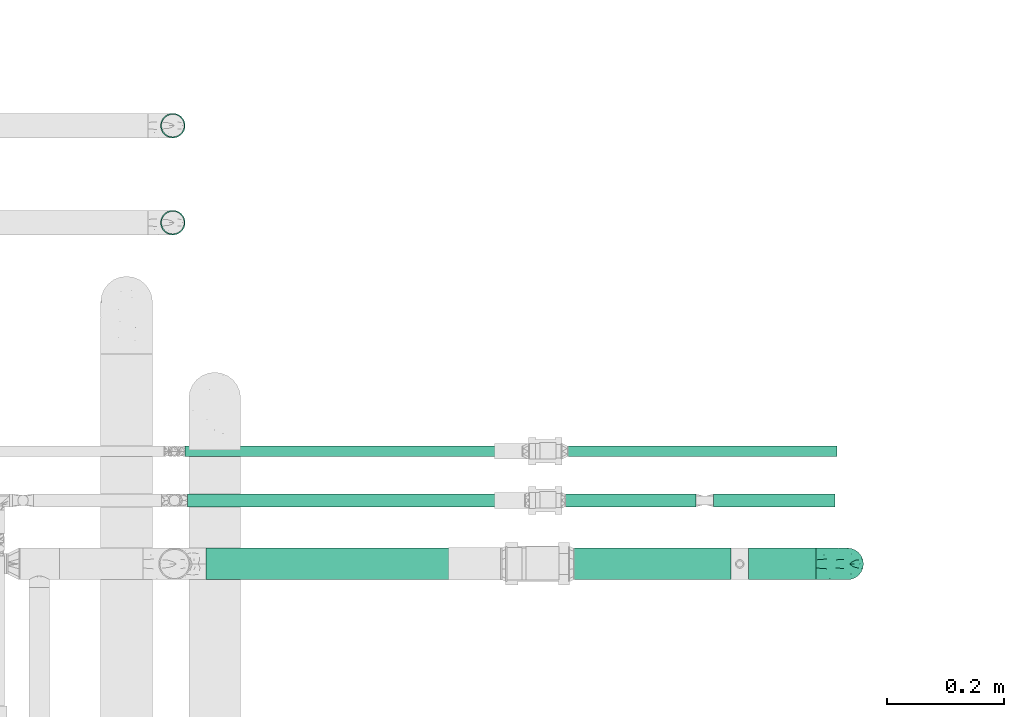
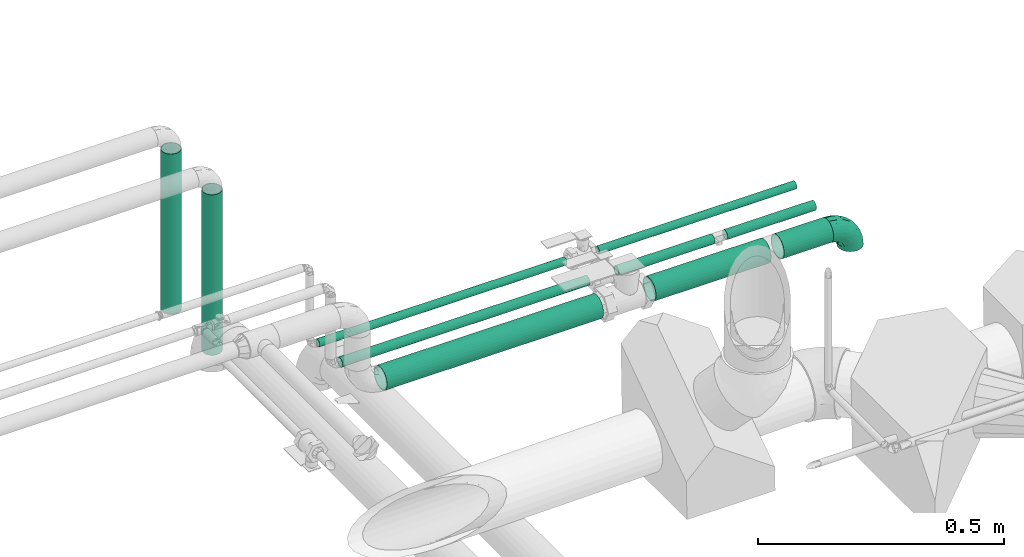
# One storey, part 65 of 156: 10 flow segments, 1 flow fitting.
"""IFC2X3 building model written with IfcOpenShell, lengths in millimetres."""

import ifcopenshell
import ifcopenshell.guid

model = None  # the IFC model being written
_history = None  # IfcOwnerHistory: only IFC2X3 demands one
_inside = {}  # id of a spatial element -> (the spatial element, [elements in it])
_under = {}  # id of a project, library or spatial element -> (it, [spatial elements below it])
_declared = {}  # id of a project -> (the project, [libraries it declares])
_typed = {}  # id of a type object -> (the type object, [elements of that type])
_made_of = {}  # id of a material, layer set ... -> (it, [elements and type objects made of it])


def new_model(schema):
    """Start an empty IFC model of exactly this schema.

    Asked for "IFC4X3", IfcOpenShell would pick the latest addendum, in which some entities
    have other attributes; the version numbers below select the first issue.
    IFC2X3 requires an IfcOwnerHistory on every rooted entity: one is made here for all.
    """
    global model, _history
    if schema == "IFC4X3":
        model = ifcopenshell.file(schema_version=(4, 3, 0, 0))
    else:
        model = ifcopenshell.file(schema=schema)
    _inside.clear()
    _under.clear()
    _declared.clear()
    _typed.clear()
    _made_of.clear()
    _history = None
    if model.schema == "IFC2X3":
        org = make("IfcOrganization", Name="unknown")
        user = make(
            "IfcPersonAndOrganization",
            ThePerson=make("IfcPerson", FamilyName="unknown"),
            TheOrganization=org,
        )
        app = make(
            "IfcApplication",
            ApplicationDeveloper=org,
            Version="unknown",
            ApplicationFullName="unknown",
            ApplicationIdentifier="unknown",
        )
        _history = make(
            "IfcOwnerHistory",
            OwningUser=user,
            OwningApplication=app,
            ChangeAction="ADDED",
            CreationDate=0,
        )
    return model


def make(cls, **values):
    """One entity of the class cls with the attributes given. An attribute that is None is left unset."""
    return model.create_entity(
        cls, **{name: value for name, value in values.items() if value is not None}
    )


def entity(cls, *values):
    """Any entity or typed value of the class cls, its attributes in the order of the schema. None: left unset."""
    e = model.create_entity(cls)
    for i, value in enumerate(values):
        if value is not None:
            e[i] = value
    return e


def rooted(cls, **values):
    """An entity with a GlobalId (a new one), such as an element, a storey or a relation."""
    return make(cls, GlobalId=ifcopenshell.guid.new(), OwnerHistory=_history, **values)


def si_unit(unit_type, name, prefix=None):
    """IfcSIUnit, for example si_unit("LENGTHUNIT", "METRE", prefix="MILLI")."""
    return make("IfcSIUnit", UnitType=unit_type, Prefix=prefix, Name=name)


def converted_unit(unit_type, name, factor, base, dimensions=None, offset=None):
    """IfcConversionBasedUnit, such as the inch: factor (a typed value) times the base unit."""
    return make(
        "IfcConversionBasedUnit"
        if offset is None
        else "IfcConversionBasedUnitWithOffset",
        ConversionOffset=offset,
        Dimensions=None
        if dimensions is None
        else entity("IfcDimensionalExponents", *dimensions),
        UnitType=unit_type,
        Name=name,
        ConversionFactor=make(
            "IfcMeasureWithUnit", ValueComponent=factor, UnitComponent=base
        ),
    )


def derived_unit(unit_type, elements):
    """IfcDerivedUnit: a product of units, each with its exponent."""
    return make(
        "IfcDerivedUnit",
        Elements=[
            make("IfcDerivedUnitElement", Unit=unit, Exponent=power)
            for unit, power in elements
        ],
        UnitType=unit_type,
    )


def assignment(units):
    """IfcUnitAssignment: the units of a project."""
    return None if units is None else make("IfcUnitAssignment", Units=units)


def point(xyz):
    """IfcCartesianPoint."""
    return None if xyz is None else make("IfcCartesianPoint", Coordinates=xyz)


def direction(xyz):
    """IfcDirection."""
    return None if xyz is None else make("IfcDirection", DirectionRatios=xyz)


def frame(location, z_axis=None, x_axis=None):
    """IfcAxis2Placement3D, a coordinate frame: its origin and axes. An axis left out is left unset."""
    return make(
        "IfcAxis2Placement3D",
        Location=point(location),
        Axis=direction(z_axis),
        RefDirection=direction(x_axis),
    )


def frame_2d(location, x_axis=None):
    """IfcAxis2Placement2D, a coordinate frame in the plane: its origin and x axis."""
    return make(
        "IfcAxis2Placement2D", Location=point(location), RefDirection=direction(x_axis)
    )


def origin_with_axes():
    """The frame at (0, 0, 0) with the z axis (0, 0, 1) and the x axis (1, 0, 0) written out."""
    return frame((0.0, 0.0, 0.0), z_axis=(0.0, 0.0, 1.0), x_axis=(1.0, 0.0, 0.0))


def origin_2d_with_axis():
    """The frame at (0, 0) in the plane with the x axis (1, 0) written out."""
    return frame_2d((0.0, 0.0), x_axis=(1.0, 0.0))


def place(relative_to, where):
    """IfcLocalPlacement: puts the frame where relative to a parent placement (None: the world)."""
    return make(
        "IfcLocalPlacement", PlacementRelTo=relative_to, RelativePlacement=where
    )


def context(
    kind, dimensions, precision=None, world=None, true_north=None, identifier=None
):
    """IfcGeometricRepresentationContext, for example the 3D "Model" context."""
    return make(
        "IfcGeometricRepresentationContext",
        ContextIdentifier=identifier,
        ContextType=kind,
        CoordinateSpaceDimension=dimensions,
        Precision=precision,
        WorldCoordinateSystem=world,
        TrueNorth=true_north,
    )


def subcontext(parent, identifier, kind, view, scale=None):
    """IfcGeometricRepresentationSubContext, for example "Body" below "Model"."""
    return make(
        "IfcGeometricRepresentationSubContext",
        ContextIdentifier=identifier,
        ContextType=kind,
        ParentContext=parent,
        TargetScale=scale,
        TargetView=view,
    )


def project(units=None, contexts=None):
    """IfcProject with its units and contexts."""
    return rooted(
        "IfcProject",
        Name="project",
        RepresentationContexts=contexts,
        UnitsInContext=assignment(units),
    )


def spatial(cls, under=None, at=None, **own):
    """A site, building, storey or space (cls), placed at a placement, below another one or the project."""
    s = rooted(cls, ObjectPlacement=at, **own)
    if under is not None:
        _under.setdefault(under.id(), (under, []))[1].append(s)
    return s


def profile(cls, at=None, kind="AREA", **sizes):
    """A parametric profile (cls). Its sizes go by their IFC names, for example OverallWidth=200.0."""
    return make(cls, ProfileType=kind, Position=at, **sizes)


def hollow_circle(**sizes):
    """IfcCircleHollowProfileDef."""
    return profile("IfcCircleHollowProfileDef", **sizes)


def extrude(swept, where, along, depth):
    """IfcExtrudedAreaSolid: the profile swept, set in the frame where, extruded along a direction by depth."""
    return make(
        "IfcExtrudedAreaSolid",
        SweptArea=swept,
        Position=where,
        ExtrudedDirection=direction(along),
        Depth=depth,
    )


def faces_of(points, faces, orient=None, outer=None):
    """IfcFace entities. A face is a list of loops; a loop is a list of indices into points, from 0.

    orient and outer hold one flag for each loop. By default every Orientation is true, the
    first loop of a face is its IfcFaceOuterBound and the others are IfcFaceBound.
    """
    made = []
    for i, loops in enumerate(faces):
        bounds = []
        for j, loop in enumerate(loops):
            is_outer = j == 0 if outer is None else outer[i][j]
            bounds.append(
                make(
                    "IfcFaceOuterBound" if is_outer else "IfcFaceBound",
                    Bound=make("IfcPolyLoop", Polygon=[points[k] for k in loop]),
                    Orientation=True if orient is None else orient[i][j],
                )
            )
        made.append(make("IfcFace", Bounds=bounds))
    return made


def open_shell(faces, orient=None, outer=None):
    """The faces of one IfcOpenShell. surface_model builds it on its shared points."""
    return ("IfcOpenShell", faces, orient, outer)


def surface_model(cls, points, shells):
    """IfcFaceBasedSurfaceModel or IfcShellBasedSurfaceModel (cls): surfaces that need not close."""
    shared = [point(p) for p in points]
    made = [make(c, CfsFaces=faces_of(shared, fs, o, b)) for c, fs, o, b in shells]
    if cls == "IfcFaceBasedSurfaceModel":
        return make(cls, FbsmFaces=made)
    return make(cls, SbsmBoundary=made)


def shape(context_of_items, identifier, shape_type, items):
    """IfcShapeRepresentation: the items that make up one representation, for example the "Body"."""
    return make(
        "IfcShapeRepresentation",
        ContextOfItems=context_of_items,
        RepresentationIdentifier=identifier,
        RepresentationType=shape_type,
        Items=items,
    )


def source(mapping_origin, context_of_items, identifier, shape_type, items):
    """IfcRepresentationMap: a shape defined once, which mapped items show again and again."""
    return make(
        "IfcRepresentationMap",
        MappingOrigin=mapping_origin,
        MappedRepresentation=shape(context_of_items, identifier, shape_type, items),
    )


def transform(
    local_origin,
    x_axis=None,
    y_axis=None,
    z_axis=None,
    scale=None,
    scale2=None,
    scale3=None,
    uniform=True,
):
    """IfcCartesianTransformationOperator3D, or its non-uniform kind. x_axis, y_axis, z_axis: its Axis1, 2, 3."""
    if uniform:
        return make(
            "IfcCartesianTransformationOperator3D",
            Axis1=direction(x_axis),
            Axis2=direction(y_axis),
            LocalOrigin=point(local_origin),
            Scale=scale,
            Axis3=direction(z_axis),
        )
    return make(
        "IfcCartesianTransformationOperator3DnonUniform",
        Axis1=direction(x_axis),
        Axis2=direction(y_axis),
        LocalOrigin=point(local_origin),
        Scale=scale,
        Axis3=direction(z_axis),
        Scale2=scale2,
        Scale3=scale3,
    )


def mapped(mapping_source, mapping_target):
    """IfcMappedItem: shows the shape of a source again, moved by a transform."""
    return make(
        "IfcMappedItem", MappingSource=mapping_source, MappingTarget=mapping_target
    )


def made_of(thing, what):
    """Note that an element or type object is made of a material, layer set ...; save() writes the relation."""
    if what is not None:
        _made_of.setdefault(what.id(), (what, []))[1].append(thing)
    return thing


def type_object(cls, material=None, **own):
    """A type object (cls), such as IfcWallType, which elements share."""
    return made_of(rooted(cls, **own), material)


def element(
    cls,
    number,
    at=None,
    inside=None,
    cuts=None,
    type_object=None,
    material=None,
    context=None,
    identifier="Body",
    shape_type=None,
    held_by="IfcProductDefinitionShape",
    body=None,
    shapes=None,
    **own,
):
    """One element of the class cls, such as IfcWall. Its Tag is "e" and its number.

    at: its placement. inside: the storey or other place that contains it. cuts: it is an
    opening in that element (IfcRelVoidsElement). A single representation is given by context,
    identifier, shape_type and body (its items); several are given by shapes. held_by: the class
    of the entity that holds the representations. save() writes the other relations.
    """
    e = rooted(cls, Tag="e%d" % number, ObjectPlacement=at, **own)
    if body is not None:
        shapes = [shape(context, identifier, shape_type, body)]
    if shapes is not None:
        e.Representation = make(held_by, Representations=shapes)
    if inside is not None:
        _inside.setdefault(inside.id(), (inside, []))[1].append(e)
    if cuts is not None:
        rooted(
            "IfcRelVoidsElement", RelatingBuildingElement=cuts, RelatedOpeningElement=e
        )
    if type_object is not None:
        _typed.setdefault(type_object.id(), (type_object, []))[1].append(e)
    return made_of(e, material)


def aggregate(whole, parts):
    """IfcRelAggregates: a whole, such as a stair, and the parts it consists of."""
    return rooted("IfcRelAggregates", RelatingObject=whole, RelatedObjects=parts)


def save(model, path):
    """Write the relations noted so far, then the file.

    IfcRelAggregates (storeys below a building ...), IfcRelContainedInSpatialStructure (elements
    in a storey), IfcRelDefinesByType, IfcRelAssociatesMaterial and IfcRelDeclares: one each for
    every whole, place, type object, material and project.
    """
    for whole, parts in _under.values():
        aggregate(whole, parts)
    for where, things in _inside.values():
        rooted(
            "IfcRelContainedInSpatialStructure",
            RelatedElements=things,
            RelatingStructure=where,
        )
    for kind, things in _typed.values():
        rooted("IfcRelDefinesByType", RelatedObjects=things, RelatingType=kind)
    for what, things in _made_of.values():
        rooted("IfcRelAssociatesMaterial", RelatedObjects=things, RelatingMaterial=what)
    for by, libraries in _declared.values():
        rooted("IfcRelDeclares", RelatingContext=by, RelatedDefinitions=libraries)
    model.write(path)


model = new_model("IFC2X3")

# Units and contexts
model_context = context("Model", 3, precision=0.01, world=frame((0.0, 4.29681676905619e-09, 0.0)), true_north=direction((4.01073788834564e-13, 1.0)))
plan_context = context("Plan", 3, precision=0.01, world=frame((0.0, 4.29681676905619e-09, 0.0)), true_north=direction((4.01073788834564e-13, 1.0)))
body_context = subcontext(model_context, "Body", "Model", "MODEL_VIEW")
ifc_project = project(units=[converted_unit("PLANEANGLEUNIT", "DEGREE", entity("IfcPositiveLengthMeasure", 0.0174532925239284), si_unit("PLANEANGLEUNIT", "RADIAN"), dimensions=[0, 0, 0, 0, 0, 0, 0]), si_unit("AREAUNIT", "SQUARE_METRE"), si_unit("LENGTHUNIT", "METRE", prefix="MILLI"), si_unit("MASSUNIT", "GRAM", prefix="KILO"), si_unit("POWERUNIT", "WATT"), si_unit("PRESSUREUNIT", "PASCAL", prefix="KILO"), si_unit("FORCEUNIT", "NEWTON", prefix="KILO"), si_unit("ELECTRICVOLTAGEUNIT", "VOLT"), si_unit("ELECTRICCURRENTUNIT", "AMPERE"), si_unit("THERMODYNAMICTEMPERATUREUNIT", "DEGREE_CELSIUS"), si_unit("TIMEUNIT", "SECOND"), si_unit("VOLUMEUNIT", "CUBIC_METRE"), derived_unit("LINEARVELOCITYUNIT", [(si_unit("LENGTHUNIT", "METRE"), 1), (si_unit("TIMEUNIT", "SECOND"), -1)]), derived_unit("VOLUMETRICFLOWRATEUNIT", [(si_unit("VOLUMEUNIT", "CUBIC_METRE"), 1), (si_unit("TIMEUNIT", "SECOND"), -1)]), derived_unit("THERMALTRANSMITTANCEUNIT", [(si_unit("POWERUNIT", "WATT"), 1), (si_unit("THERMODYNAMICTEMPERATUREUNIT", "KELVIN"), -1), (si_unit("AREAUNIT", "SQUARE_METRE"), -1)]), derived_unit("SOUNDPRESSUREUNIT", [(si_unit("PRESSUREUNIT", "PASCAL"), 1)])], contexts=[model_context, plan_context])

# Site, building, storey
site_placement = place(None, frame((0.0, -4.29681676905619e-09, 0.0), z_axis=(0.0, 0.0, 1.0), x_axis=(1.0, 0.0, 0.0)))
site = spatial("IfcSite", under=ifc_project, at=site_placement, CompositionType="ELEMENT")
building_placement = place(site_placement, frame((0.0, 4.29681676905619e-09, 0.0), z_axis=(0.0, 0.0, 1.0), x_axis=(1.0, 0.0, 0.0)))
building = spatial("IfcBuilding", under=site, at=building_placement, Name="mc-building", CompositionType="ELEMENT")
storey_placement = place(building_placement, frame((0.0, 0.0, 205200.0), z_axis=(0.0, 0.0, 1.0), x_axis=(1.0, 0.0, 0.0)))
storey = spatial("IfcBuildingStorey", under=building, at=storey_placement, Name="Nivå D + 1,2 m", CompositionType="ELEMENT", Elevation=205200.0)

# Flow fitting
pipe_fitting_type = type_object("IfcPipeFittingType", Name="magi_pipe_elbow_short_001", PredefinedType="BEND")
shared_shape_1 = source(origin_with_axes(), body_context, "Body", "SurfaceModel", [
    surface_model("IfcShellBasedSurfaceModel", [(-54.0, 0.0, -27.0), (-54.0, -6.98811, -26.08), (-54.0, 6.98811, -26.08), (-54.0, -13.5, -23.38269), (-54.0, -19.09188, -19.09188), (-54.0, -23.38269, -13.5), (-54.0, -26.08, -6.98811), (-54.0, -27.0, 0.0), (-54.0, 26.08, -6.98811), (-54.0, 23.38269, 13.5), (-54.0, 26.08, 6.98811), (-54.0, 19.09188, 19.09188), (-54.0, 6.98811, 26.08), (-54.0, 13.5, 23.38269), (-54.0, -19.09188, 19.09188), (-54.0, -13.5, 23.38269), (-54.0, -23.38269, 13.5), (-54.0, -26.08, 6.98811), (-54.0, -6.98811, 26.08), (-54.0, 0.0, 27.0), (-6.98811, 54.0, -26.08), (6.98811, 54.0, -26.08), (0.0, 54.0, -27.0), (19.09188, 54.0, -19.09188), (13.5, 54.0, -23.38269), (27.0, 54.0, 0.0), (26.08, 54.0, -6.98811), (23.38269, 54.0, -13.5), (23.38269, 54.0, 13.5), (-26.08, 54.0, 6.98811), (-23.38269, 54.0, 13.5), (-26.08, 54.0, -6.98811), (-19.09188, 54.0, 19.09188), (-13.5, 54.0, 23.38269), (-6.98811, 54.0, 26.08), (13.5, 54.0, 23.38269), (19.09188, 54.0, 19.09188), (26.08, 54.0, 6.98811), (6.98811, 54.0, 26.08), (0.0, 54.0, 27.0), (-39.61154, -20.97605, 15.15708), (-35.45606, -15.57721, 20.11923), (-38.50132, -23.91712, 0.0), (-23.86759, -17.19462, 13.62733), (-35.88435, -23.5659, 8.42076), (23.5659, 35.88435, 8.42076), (19.05193, 21.15087, 6.92152), (20.83424, 23.00264, 0.0), (-26.39267, 43.09347, 11.73514), (-22.55495, 42.03593, 17.7381), (-39.68533, -10.20988, 24.2917), (-41.24736, -3.57676, 26.53823), (-37.80877, 4.13874, 26.95398), (-9.8635, -12.05495, 0.0), (-21.15087, -19.05193, 6.92152), (-23.00264, -20.83424, 0.0), (-20.86046, -6.553, 22.43106), (-26.88103, -0.2423, 26.16984), (-2.32359, -4.56424, 12.16558), (-0.45254, 0.55713, 16.12825), (-9.17815, -6.46576, 16.63487), (-42.20732, 22.50781, 17.71924), (-9.38376, 26.55177, 26.95156), (-19.99929, 19.99929, 26.34396), (-16.07717, 11.79878, 26.86092), (-46.71355, 16.35074, 22.00025), (-10.07861, 46.57322, 25.29032), (-3.70046, 40.38819, 26.93368), (-43.10688, 26.3883, 11.73335), (-54.0, 27.0, 0.0), (-42.68609, 28.75898, 5.93637), (-33.52407, 33.52407, 10.09282), (-41.6207, 10.58928, 25.50537), (-7.04776, 18.08389, 26.51124), (-13.41575, 4.9532, 25.21256), (-2.7583, 14.58736, 24.81267), (-4.82297, 4.82297, 22.07479), (15.57721, 35.45606, 20.11923), (17.19462, 23.86759, 13.62733), (20.97605, 39.61154, 15.15708), (-28.70414, 18.3202, 24.97342), (-29.66962, 11.56537, 26.51682), (3.57676, 41.24736, 26.53823), (10.20988, 39.68533, 24.2917), (6.553, 20.86046, 22.43106), (23.91712, 38.50132, 0.0), (-26.4941, 6.61616, 26.98848), (-24.99511, 28.51241, 22.18592), (-37.18023, 18.32807, 22.73678), (-28.42093, 43.55716, 5.79236), (-33.83866, 35.41357, 4.75182), (12.32393, 21.86915, 18.4669), (-30.61731, 40.5, 0.0), (-27.0, 54.0, 0.0), (-11.677, 36.58566, 25.71372), (-15.40733, 27.94959, 25.95527), (-19.57488, 34.89765, 22.69273), (-21.51054, 26.14004, 24.56694), (-16.49507, 45.27461, 22.11226), (-21.86915, -12.32393, 18.4669), (-28.00174, 35.79085, 15.28172), (-28.46079, 30.1533, 19.12532), (-34.67745, 29.01187, 15.05583), (0.2423, 26.88103, 26.16984), (6.14836, 9.37801, 17.10224), (-12.81493, -12.05275, 12.67362), (1.60314, -3.50694, 7.30779), (8.1991, 4.80894, 9.42925), (8.37417, 2.80273, 4.04625), (13.9067, 11.26247, 6.37746), (13.55623, 14.00643, 11.33194), (-40.5, 30.61731, 0.0), (-7.27702, -10.73712, 7.83929), (3.27565, -3.27565, 0.0), (12.05495, 9.8635, 0.0), (-21.86915, -12.32393, -18.4669), (-35.45606, -15.57721, -20.11923), (-20.86046, -6.553, -22.43106), (-23.86759, -17.19462, -13.62733), (-54.0, 23.38269, -13.5), (-42.03593, 22.55495, -17.7381), (-54.0, 19.09188, -19.09188), (-45.27461, 16.49507, -22.11226), (-54.0, 13.5, -23.38269), (-43.55716, 28.42093, -5.79236), (-35.88435, -23.5659, -8.42076), (-33.52407, 33.52407, -10.09282), (-43.09347, 26.39267, -11.73514), (-21.15087, -19.05193, -6.92152), (-26.14004, 21.51054, -24.56694), (-27.94959, 15.40733, -25.95527), (-34.89765, 19.57488, -22.69273), (-19.09188, 54.0, -19.09188), (-16.35074, 46.71355, -22.00025), (-22.50781, 42.20732, -17.71924), (10.20988, 39.68533, -24.2917), (6.553, 20.86046, -22.43106), (0.2423, 26.88103, -26.16984), (-46.57322, 10.07861, -25.29032), (-39.61154, -20.97605, -15.15708), (-39.68533, -10.20988, -24.2917), (-18.3202, 28.70414, -24.97342), (-10.58928, 41.6207, -25.50537), (-11.56537, 29.66962, -26.51682), (-41.24736, -3.57676, -26.53823), (-26.55177, 9.38376, -26.95156), (-19.99929, 19.99929, -26.34396), (-11.79878, 16.07717, -26.86092), (-40.38819, 3.70046, -26.93368), (-28.75898, 42.68609, -5.93637), (-26.3883, 43.10688, -11.73334), (-36.58566, 11.677, -25.71372), (-35.41357, 33.83866, -4.75182), (-6.61616, 26.4941, -26.98848), (-28.51241, 24.99511, -22.18593), (-18.32807, 37.18023, -22.73678), (-23.38269, 54.0, -13.5), (3.57676, 41.24736, -26.53823), (-4.13874, 37.80876, -26.95398), (-13.5, 54.0, -23.38269), (20.97605, 39.61154, -15.15708), (15.57721, 35.45606, -20.11923), (8.37418, 2.80274, -4.04624), (13.9067, 11.26247, -6.37746), (-18.08389, 7.04775, -26.51124), (-4.9532, 13.41575, -25.21256), (-14.58736, 2.75829, -24.81267), (1.60314, -3.50694, -7.30779), (-7.27702, -10.73712, -7.83929), (-2.32359, -4.56424, -12.16557), (17.19462, 23.86759, -13.62733), (23.5659, 35.88435, -8.42076), (19.05193, 21.15087, -6.92152), (-35.79085, 28.00174, -15.28172), (12.32393, 21.86915, -18.4669), (13.55623, 14.00642, -11.33194), (6.14836, 9.37801, -17.10224), (-30.1533, 28.46079, -19.12532), (-29.01188, 34.67745, -15.05583), (-26.88103, -0.2423, -26.16984), (-4.82297, 4.82297, -22.07479), (-9.17815, -6.46576, -16.63487), (-12.81493, -12.05275, -12.67362), (-0.45254, 0.55713, -16.12825), (8.1991, 4.80894, -9.42925)], [open_shell([[[0, 1, 2]], [[3, 4, 1]], [[5, 6, 4]], [[7, 4, 6]], [[8, 9, 10]], [[8, 11, 9]], [[12, 13, 11]], [[14, 15, 16]], [[16, 7, 17]], [[15, 18, 16]], [[18, 12, 16]], [[12, 18, 19]], [[20, 21, 22]], [[21, 23, 24]], [[23, 21, 25]], [[23, 26, 27]], [[26, 23, 25]], [[25, 21, 28]], [[29, 30, 31]], [[32, 33, 34]], [[28, 35, 36]], [[37, 25, 28]], [[28, 38, 35]], [[28, 34, 38]], [[39, 38, 34]], [[14, 40, 41]], [[17, 7, 42]], [[43, 40, 44]], [[45, 46, 47]], [[40, 14, 16]], [[17, 44, 16]], [[30, 48, 49]], [[41, 15, 14]], [[41, 50, 15]], [[19, 51, 52]], [[53, 54, 55]], [[50, 56, 57]], [[58, 59, 60]], [[9, 11, 61]], [[62, 63, 64]], [[13, 65, 11]], [[18, 51, 19]], [[34, 66, 67]], [[19, 52, 12]], [[9, 61, 68]], [[11, 65, 61]], [[69, 10, 70]], [[10, 9, 68]], [[70, 68, 71]], [[12, 72, 13]], [[73, 74, 75]], [[60, 76, 56]], [[77, 36, 35]], [[78, 79, 77]], [[80, 72, 81]], [[15, 50, 18]], [[39, 82, 38]], [[45, 37, 28]], [[39, 34, 67]], [[77, 83, 84]], [[28, 79, 45]], [[85, 37, 45]], [[79, 28, 36]], [[83, 35, 38]], [[45, 47, 85]], [[81, 86, 64]], [[46, 45, 78]], [[80, 87, 88]], [[71, 89, 90]], [[91, 77, 84]], [[92, 89, 93]], [[72, 12, 52]], [[89, 71, 48]], [[54, 44, 55]], [[49, 32, 30]], [[94, 62, 67]], [[95, 96, 97]], [[17, 42, 44]], [[98, 33, 32]], [[66, 34, 33]], [[49, 96, 98]], [[99, 56, 41]], [[83, 77, 35]], [[30, 29, 48]], [[48, 100, 49]], [[96, 49, 101]], [[88, 101, 61]], [[68, 102, 71]], [[94, 95, 62]], [[82, 67, 103]], [[56, 50, 41]], [[55, 44, 42]], [[51, 50, 57]], [[99, 41, 43]], [[56, 76, 74]], [[82, 83, 38]], [[25, 37, 85]], [[103, 75, 84]], [[103, 84, 83]], [[84, 76, 104]], [[105, 60, 99]], [[58, 60, 105]], [[54, 43, 44]], [[58, 106, 107]], [[108, 109, 107]], [[91, 78, 77]], [[44, 40, 16]], [[41, 40, 43]], [[77, 79, 36]], [[45, 79, 78]], [[81, 72, 52]], [[65, 72, 88]], [[89, 48, 29]], [[71, 102, 100]], [[80, 97, 87]], [[94, 66, 98]], [[102, 61, 101]], [[71, 90, 70]], [[81, 64, 63]], [[103, 67, 62]], [[74, 64, 57]], [[62, 64, 73]], [[67, 82, 39]], [[83, 82, 103]], [[50, 51, 18]], [[52, 51, 57]], [[59, 76, 60]], [[104, 107, 110]], [[81, 52, 86]], [[80, 81, 63]], [[97, 80, 63]], [[72, 80, 88]], [[95, 97, 63]], [[87, 97, 96]], [[93, 89, 29]], [[89, 92, 90]], [[92, 111, 90]], [[90, 111, 70]], [[69, 70, 111]], [[10, 68, 70]], [[52, 57, 86]], [[57, 64, 86]], [[62, 95, 63]], [[96, 95, 94]], [[61, 102, 68]], [[100, 102, 101]], [[49, 100, 101]], [[71, 100, 48]], [[49, 98, 32]], [[94, 98, 96]], [[96, 101, 87]], [[88, 87, 101]], [[56, 74, 57]], [[75, 74, 76]], [[84, 75, 76]], [[73, 75, 103]], [[62, 73, 103]], [[74, 73, 64]], [[72, 65, 13]], [[61, 65, 88]], [[98, 66, 33]], [[67, 66, 94]], [[54, 53, 112]], [[105, 54, 112]], [[107, 109, 110]], [[113, 112, 53]], [[105, 99, 43]], [[107, 106, 108]], [[114, 47, 46]], [[60, 56, 99]], [[84, 104, 91]], [[110, 91, 104]], [[54, 105, 43]], [[58, 105, 112]], [[106, 58, 112]], [[59, 107, 104]], [[112, 113, 106]], [[108, 106, 113]], [[113, 114, 108]], [[109, 114, 46]], [[114, 109, 108]], [[110, 46, 78]], [[46, 110, 109]], [[110, 78, 91]], [[107, 59, 58]], [[76, 59, 104]], [[115, 116, 117]], [[116, 115, 118]], [[119, 120, 121]], [[121, 122, 123]], [[111, 124, 69]], [[42, 6, 125]], [[124, 126, 127]], [[125, 128, 55]], [[129, 130, 131]], [[132, 133, 134]], [[135, 136, 137]], [[123, 138, 2]], [[125, 5, 139]], [[140, 3, 1]], [[125, 55, 42]], [[119, 8, 127]], [[5, 4, 139]], [[141, 142, 143]], [[144, 1, 0]], [[145, 146, 147]], [[5, 125, 6]], [[118, 139, 116]], [[148, 0, 2]], [[149, 150, 126]], [[120, 131, 122]], [[151, 145, 148]], [[124, 152, 126]], [[143, 153, 147]], [[93, 31, 149]], [[141, 154, 155]], [[150, 31, 156]], [[22, 157, 158]], [[116, 4, 3]], [[132, 159, 133]], [[142, 159, 20]], [[23, 160, 161]], [[22, 21, 157]], [[114, 162, 163]], [[127, 120, 119]], [[132, 134, 156]], [[2, 138, 148]], [[24, 161, 135]], [[140, 116, 3]], [[22, 158, 20]], [[164, 165, 166]], [[167, 168, 169]], [[27, 160, 23]], [[161, 24, 23]], [[170, 160, 171]], [[128, 125, 118]], [[25, 85, 26]], [[26, 85, 171]], [[172, 171, 47]], [[26, 171, 27]], [[142, 20, 158]], [[127, 173, 120]], [[174, 175, 176]], [[134, 150, 156]], [[24, 135, 21]], [[116, 140, 117]], [[131, 120, 177]], [[155, 177, 134]], [[150, 178, 126]], [[151, 130, 145]], [[144, 148, 179]], [[144, 140, 1]], [[7, 6, 42]], [[179, 166, 117]], [[179, 117, 140]], [[117, 180, 181]], [[136, 135, 161]], [[47, 171, 85]], [[157, 135, 137]], [[174, 161, 170]], [[136, 180, 165]], [[180, 136, 176]], [[118, 115, 182]], [[176, 183, 180]], [[53, 128, 168]], [[169, 168, 182]], [[172, 170, 171]], [[116, 139, 4]], [[125, 139, 118]], [[171, 160, 27]], [[161, 160, 170]], [[143, 142, 158]], [[133, 142, 155]], [[124, 127, 8]], [[126, 178, 173]], [[141, 129, 154]], [[151, 138, 122]], [[178, 134, 177]], [[126, 152, 149]], [[143, 147, 146]], [[179, 148, 145]], [[165, 147, 137]], [[145, 147, 164]], [[148, 144, 0]], [[140, 144, 179]], [[135, 157, 21]], [[158, 157, 137]], [[174, 136, 161]], [[184, 169, 183]], [[143, 158, 153]], [[141, 143, 146]], [[129, 141, 146]], [[142, 141, 155]], [[130, 129, 146]], [[154, 129, 131]], [[69, 124, 8]], [[124, 111, 152]], [[111, 92, 152]], [[152, 92, 149]], [[93, 149, 92]], [[31, 150, 149]], [[158, 137, 153]], [[137, 147, 153]], [[145, 130, 146]], [[131, 130, 151]], [[134, 178, 150]], [[173, 178, 177]], [[120, 173, 177]], [[126, 173, 127]], [[120, 122, 121]], [[151, 122, 131]], [[131, 177, 154]], [[155, 154, 177]], [[136, 165, 137]], [[166, 165, 180]], [[117, 166, 180]], [[164, 166, 179]], [[145, 164, 179]], [[165, 164, 147]], [[142, 133, 159]], [[134, 133, 155]], [[122, 138, 123]], [[148, 138, 151]], [[182, 128, 118]], [[168, 113, 53]], [[113, 167, 162]], [[55, 128, 53]], [[172, 163, 175]], [[172, 47, 114]], [[117, 181, 115]], [[182, 115, 181]], [[175, 174, 170]], [[176, 136, 174]], [[169, 182, 181]], [[128, 182, 168]], [[183, 169, 181]], [[167, 169, 184]], [[162, 167, 184]], [[113, 168, 167]], [[163, 162, 184]], [[114, 113, 162]], [[175, 163, 184]], [[114, 163, 172]], [[176, 175, 184]], [[172, 175, 170]], [[180, 183, 181]], [[184, 183, 176]], [[2, 1, 123]], [[8, 119, 121]], [[121, 123, 7]], [[121, 7, 8]], [[4, 123, 1]], [[4, 7, 123]], [[7, 11, 8]], [[11, 7, 12]], [[16, 12, 7]], [[69, 8, 10]], [[31, 20, 159]], [[156, 31, 159]], [[156, 159, 132]], [[20, 28, 21]], [[20, 31, 32]], [[30, 32, 31]], [[34, 20, 32]], [[34, 28, 20]], [[31, 93, 29]]])]),
])
flow_fitting_placement = place(storey_placement, frame((328120.59277, 463284.5375, 4128.0), z_axis=(0.0, 1.0, 0.0), x_axis=(1.0, 0.0, 0.0)))
element("IfcFlowFitting", 1, at=flow_fitting_placement, inside=storey, type_object=pipe_fitting_type, Name="magi_pipe_elbow_short_001", context=body_context, shape_type="MappedRepresentation", body=[
    mapped(shared_shape_1, transform((0.0, 0.0, 0.0), scale=1.0)),
])

# Flow segments
pipe_segment_type_1 = type_object("IfcPipeSegmentType", Name="Stålrør normaltykke", PredefinedType="RIGIDSEGMENT")
shared_shape_2 = source(origin_with_axes(), body_context, "Body", "SweptSolid", [
    extrude(hollow_circle(Radius=21.2, WallThickness=2.0, at=origin_2d_with_axis()), frame((0.0, 0.0, 0.0), z_axis=(1.0, 0.0, 0.0), x_axis=(0.0, 1.0, 0.0)), (0.0, 0.0, 1.0), 397.7),
])
for number, where, z_axis, x_axis in (
    (2, (326963.30442, 463869.78191, 3863.39999999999), (1.0, 0.0, 0.0), (0.0, 0.0, 1.0)),
    (3, (326963.30442, 464036.1423, 3863.39999999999), (1.0, 0.0, 0.0), (0.0, 0.0, 1.0)),
):
    element("IfcFlowSegment", number, at=place(storey_placement, frame(where, z_axis=z_axis, x_axis=x_axis)), inside=storey, type_object=pipe_segment_type_1, Name="Stålrør normaltykke", context=body_context, shape_type="MappedRepresentation", body=[
        mapped(shared_shape_2, transform((0.0, 0.0, 0.0), scale=1.0)),
    ])
pipe_segment_type_2 = type_object("IfcPipeSegmentType", Name="Kobberrør", PredefinedType="RIGIDSEGMENT")
shared_shape_3 = source(origin_with_axes(), body_context, "Body", "SweptSolid", [
    extrude(hollow_circle(Radius=27.0, WallThickness=2.0, at=origin_2d_with_axis()), frame((0.0, 0.0, 0.0), z_axis=(1.0, 0.0, 0.0), x_axis=(0.0, 1.0, 0.0)), (0.0, 0.0, 1.0), 116.1),
])
flow_segment_1_placement = place(storey_placement, frame((327950.47035, 463284.5375, 4128.0), z_axis=(0.0, 0.0, 1.0), x_axis=(1.0, 0.0, 0.0)))
element("IfcFlowSegment", 4, at=flow_segment_1_placement, inside=storey, type_object=pipe_segment_type_2, Name="Kobberrør", context=body_context, shape_type="MappedRepresentation", body=[
    mapped(shared_shape_3, transform((0.0, 0.0, 0.0), scale=1.0)),
])
shared_shape_4 = source(origin_with_axes(), body_context, "Body", "SweptSolid", [
    extrude(hollow_circle(Radius=11.0, WallThickness=2.0, at=origin_2d_with_axis()), frame((0.0, 0.0, 0.0), z_axis=(1.0, 0.0, 0.0), x_axis=(0.0, 1.0, 0.0)), (0.0, 0.0, 1.0), 208.1),
])
flow_segment_2_placement = place(storey_placement, frame((327890.47035, 463393.4875, 4112.0), z_axis=(0.0, 0.0, 1.0), x_axis=(1.0, 0.0, 0.0)))
element("IfcFlowSegment", 5, at=flow_segment_2_placement, inside=storey, type_object=pipe_segment_type_2, Name="Kobberrør", context=body_context, shape_type="MappedRepresentation", body=[
    mapped(shared_shape_4, transform((0.0, 0.0, 0.0), scale=1.0)),
])
shared_shape_5 = source(origin_with_axes(), body_context, "Body", "SweptSolid", [
    extrude(hollow_circle(Radius=9.0, WallThickness=2.0, at=origin_2d_with_axis()), frame((0.0, 0.0, 0.0), z_axis=(1.0, 0.0, 0.0), x_axis=(0.0, 1.0, 0.0)), (0.0, 0.0, 1.0), 462.8),
])
flow_segment_3_placement = place(storey_placement, frame((327639.75, 463477.7375, 4110.0), z_axis=(0.0, 0.0, 1.0), x_axis=(1.0, 0.0, 0.0)))
element("IfcFlowSegment", 6, at=flow_segment_3_placement, inside=storey, type_object=pipe_segment_type_2, Name="Kobberrør", context=body_context, shape_type="MappedRepresentation", body=[
    mapped(shared_shape_5, transform((0.0, 0.0, 0.0), scale=1.0)),
])
shared_shape_6 = source(origin_with_axes(), body_context, "Body", "SweptSolid", [
    extrude(hollow_circle(Radius=11.0, WallThickness=2.0, at=origin_2d_with_axis()), frame((0.0, 0.0, 0.0), z_axis=(1.0, 0.0, 0.0), x_axis=(0.0, 1.0, 0.0)), (0.0, 0.0, 1.0), 580.0),
])
flow_segment_4_placement = place(storey_placement, frame((326988.13637, 463393.4875, 4112.0), z_axis=(0.0, 0.0, 1.0), x_axis=(1.0, 0.0, 0.0)))
element("IfcFlowSegment", 7, at=flow_segment_4_placement, inside=storey, type_object=pipe_segment_type_2, Name="Kobberrør", context=body_context, shape_type="MappedRepresentation", body=[
    mapped(shared_shape_6, transform((0.0, 0.0, 0.0), scale=1.0)),
])
shared_shape_7 = source(origin_with_axes(), body_context, "Body", "SweptSolid", [
    extrude(hollow_circle(Radius=9.0, WallThickness=2.0, at=origin_2d_with_axis()), frame((0.0, 0.0, 0.0), z_axis=(1.0, 0.0, 0.0), x_axis=(0.0, 1.0, 0.0)), (0.0, 0.0, 1.0), 580.0),
])
flow_segment_5_placement = place(storey_placement, frame((326984.13637, 463477.7375, 4110.0), z_axis=(0.0, 0.0, 1.0), x_axis=(1.0, 0.0, 0.0)))
element("IfcFlowSegment", 8, at=flow_segment_5_placement, inside=storey, type_object=pipe_segment_type_2, Name="Kobberrør", context=body_context, shape_type="MappedRepresentation", body=[
    mapped(shared_shape_7, transform((0.0, 0.0, 0.0), scale=1.0)),
])
shared_shape_8 = source(origin_with_axes(), body_context, "Body", "SweptSolid", [
    extrude(hollow_circle(Radius=27.0, WallThickness=2.0, at=origin_2d_with_axis()), frame((0.0, 0.0, 0.0), z_axis=(1.0, 0.0, 0.0), x_axis=(0.0, 1.0, 0.0)), (0.0, 0.0, 1.0), 507.4),
])
flow_segment_6_placement = place(storey_placement, frame((327020.13637, 463284.5375, 4128.0), z_axis=(0.0, 0.0, 1.0), x_axis=(1.0, 0.0, 0.0)))
element("IfcFlowSegment", 9, at=flow_segment_6_placement, inside=storey, type_object=pipe_segment_type_2, Name="Kobberrør", context=body_context, shape_type="MappedRepresentation", body=[
    mapped(shared_shape_8, transform((0.0, 0.0, 0.0), scale=1.0)),
])
shared_shape_9 = source(origin_with_axes(), body_context, "Body", "SweptSolid", [
    extrude(hollow_circle(Radius=11.0, WallThickness=2.0, at=origin_2d_with_axis()), frame((0.0, 0.0, 0.0), z_axis=(1.0, 0.0, 0.0), x_axis=(0.0, 1.0, 0.0)), (0.0, 0.0, 1.0), 224.7),
])
flow_segment_7_placement = place(storey_placement, frame((327635.75, 463393.4875, 4112.0), z_axis=(0.0, 0.0, 1.0), x_axis=(1.0, 0.0, 0.0)))
element("IfcFlowSegment", 10, at=flow_segment_7_placement, inside=storey, type_object=pipe_segment_type_2, Name="Kobberrør", context=body_context, shape_type="MappedRepresentation", body=[
    mapped(shared_shape_9, transform((0.0, 0.0, 0.0), scale=1.0)),
])
shared_shape_10 = source(origin_with_axes(), body_context, "Body", "SweptSolid", [
    extrude(hollow_circle(Radius=27.0, WallThickness=2.0, at=origin_2d_with_axis()), frame((0.0, 0.0, 0.0), z_axis=(1.0, 0.0, 0.0), x_axis=(0.0, 1.0, 0.0)), (0.0, 0.0, 1.0), 270.1),
])
flow_segment_8_placement = place(storey_placement, frame((327650.35, 463284.5375, 4128.0), z_axis=(0.0, 0.0, 1.0), x_axis=(1.0, 0.0, 0.0)))
element("IfcFlowSegment", 11, at=flow_segment_8_placement, inside=storey, type_object=pipe_segment_type_2, Name="Kobberrør", context=body_context, shape_type="MappedRepresentation", body=[
    mapped(shared_shape_10, transform((0.0, 0.0, 0.0), scale=1.0)),
])

save(model, "model.ifc")
